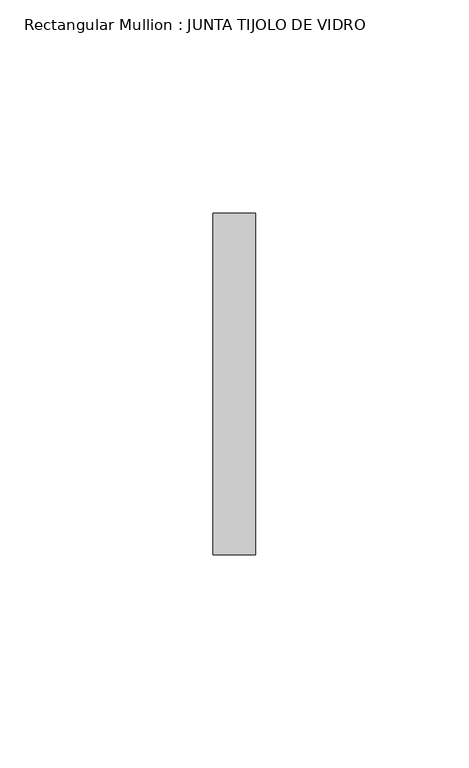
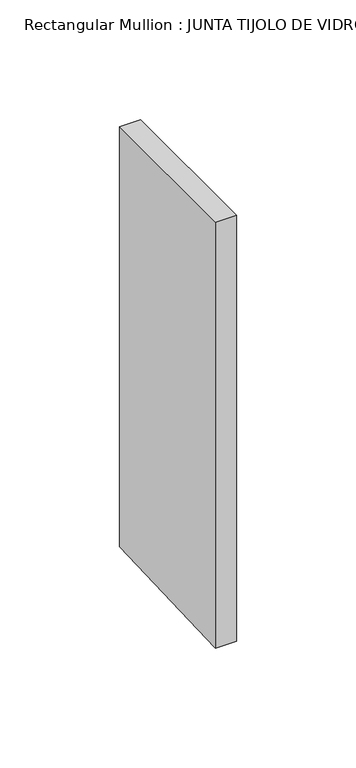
"""IFC4 building model written with IfcOpenShell, lengths in millimetres: member geometry, Rectangular Mullion : JUNTA TIJOLO DE VIDRO."""

import ifcopenshell
import ifcopenshell.guid

model = None  # the IFC model being written
_history = None  # IfcOwnerHistory: only IFC2X3 demands one
_inside = {}  # id of a spatial element -> (the spatial element, [elements in it])
_under = {}  # id of a project, library or spatial element -> (it, [spatial elements below it])
_declared = {}  # id of a project -> (the project, [libraries it declares])
_typed = {}  # id of a type object -> (the type object, [elements of that type])
_made_of = {}  # id of a material, layer set ... -> (it, [elements and type objects made of it])


def new_model(schema):
    """Start an empty IFC model of exactly this schema.

    Asked for "IFC4X3", IfcOpenShell would pick the latest addendum, in which some entities
    have other attributes; the version numbers below select the first issue.
    IFC2X3 requires an IfcOwnerHistory on every rooted entity: one is made here for all.
    """
    global model, _history
    if schema == "IFC4X3":
        model = ifcopenshell.file(schema_version=(4, 3, 0, 0))
    else:
        model = ifcopenshell.file(schema=schema)
    _inside.clear()
    _under.clear()
    _declared.clear()
    _typed.clear()
    _made_of.clear()
    _history = None
    if model.schema == "IFC2X3":
        org = make("IfcOrganization", Name="unknown")
        user = make(
            "IfcPersonAndOrganization",
            ThePerson=make("IfcPerson", FamilyName="unknown"),
            TheOrganization=org,
        )
        app = make(
            "IfcApplication",
            ApplicationDeveloper=org,
            Version="unknown",
            ApplicationFullName="unknown",
            ApplicationIdentifier="unknown",
        )
        _history = make(
            "IfcOwnerHistory",
            OwningUser=user,
            OwningApplication=app,
            ChangeAction="ADDED",
            CreationDate=0,
        )
    return model


def make(cls, **values):
    """One entity of the class cls with the attributes given. An attribute that is None is left unset."""
    return model.create_entity(
        cls, **{name: value for name, value in values.items() if value is not None}
    )


def rooted(cls, **values):
    """An entity with a GlobalId (a new one), such as an element, a storey or a relation."""
    return make(cls, GlobalId=ifcopenshell.guid.new(), OwnerHistory=_history, **values)


def si_unit(unit_type, name, prefix=None):
    """IfcSIUnit, for example si_unit("LENGTHUNIT", "METRE", prefix="MILLI")."""
    return make("IfcSIUnit", UnitType=unit_type, Prefix=prefix, Name=name)


def assignment(units):
    """IfcUnitAssignment: the units of a project."""
    return None if units is None else make("IfcUnitAssignment", Units=units)


def point(xyz):
    """IfcCartesianPoint."""
    return None if xyz is None else make("IfcCartesianPoint", Coordinates=xyz)


def direction(xyz):
    """IfcDirection."""
    return None if xyz is None else make("IfcDirection", DirectionRatios=xyz)


def frame(location, z_axis=None, x_axis=None):
    """IfcAxis2Placement3D, a coordinate frame: its origin and axes. An axis left out is left unset."""
    return make(
        "IfcAxis2Placement3D",
        Location=point(location),
        Axis=direction(z_axis),
        RefDirection=direction(x_axis),
    )


def origin():
    """The frame at (0, 0, 0) with its axes left unset."""
    return frame((0.0, 0.0, 0.0))


def place(relative_to, where):
    """IfcLocalPlacement: puts the frame where relative to a parent placement (None: the world)."""
    return make(
        "IfcLocalPlacement", PlacementRelTo=relative_to, RelativePlacement=where
    )


def context(
    kind, dimensions, precision=None, world=None, true_north=None, identifier=None
):
    """IfcGeometricRepresentationContext, for example the 3D "Model" context."""
    return make(
        "IfcGeometricRepresentationContext",
        ContextIdentifier=identifier,
        ContextType=kind,
        CoordinateSpaceDimension=dimensions,
        Precision=precision,
        WorldCoordinateSystem=world,
        TrueNorth=true_north,
    )


def project(units=None, contexts=None):
    """IfcProject with its units and contexts."""
    return rooted(
        "IfcProject",
        Name="project",
        RepresentationContexts=contexts,
        UnitsInContext=assignment(units),
    )


def spatial(cls, under=None, at=None, **own):
    """A site, building, storey or space (cls), placed at a placement, below another one or the project."""
    s = rooted(cls, ObjectPlacement=at, **own)
    if under is not None:
        _under.setdefault(under.id(), (under, []))[1].append(s)
    return s


def polyline(points):
    """IfcPolyline through the points."""
    return make("IfcPolyline", Points=[point(p) for p in points])


def outline(outer, holes=None, kind="AREA"):
    """IfcArbitraryClosedProfileDef: a profile drawn as a closed curve; with holes, ...WithVoids."""
    if holes is None:
        return make("IfcArbitraryClosedProfileDef", ProfileType=kind, OuterCurve=outer)
    return make(
        "IfcArbitraryProfileDefWithVoids",
        ProfileType=kind,
        OuterCurve=outer,
        InnerCurves=holes,
    )


def extrude(swept, where, along, depth):
    """IfcExtrudedAreaSolid: the profile swept, set in the frame where, extruded along a direction by depth."""
    return make(
        "IfcExtrudedAreaSolid",
        SweptArea=swept,
        Position=where,
        ExtrudedDirection=direction(along),
        Depth=depth,
    )


def shape(context_of_items, identifier, shape_type, items):
    """IfcShapeRepresentation: the items that make up one representation, for example the "Body"."""
    return make(
        "IfcShapeRepresentation",
        ContextOfItems=context_of_items,
        RepresentationIdentifier=identifier,
        RepresentationType=shape_type,
        Items=items,
    )


def source(mapping_origin, context_of_items, identifier, shape_type, items):
    """IfcRepresentationMap: a shape defined once, which mapped items show again and again."""
    return make(
        "IfcRepresentationMap",
        MappingOrigin=mapping_origin,
        MappedRepresentation=shape(context_of_items, identifier, shape_type, items),
    )


def transform(
    local_origin,
    x_axis=None,
    y_axis=None,
    z_axis=None,
    scale=None,
    scale2=None,
    scale3=None,
    uniform=True,
):
    """IfcCartesianTransformationOperator3D, or its non-uniform kind. x_axis, y_axis, z_axis: its Axis1, 2, 3."""
    if uniform:
        return make(
            "IfcCartesianTransformationOperator3D",
            Axis1=direction(x_axis),
            Axis2=direction(y_axis),
            LocalOrigin=point(local_origin),
            Scale=scale,
            Axis3=direction(z_axis),
        )
    return make(
        "IfcCartesianTransformationOperator3DnonUniform",
        Axis1=direction(x_axis),
        Axis2=direction(y_axis),
        LocalOrigin=point(local_origin),
        Scale=scale,
        Axis3=direction(z_axis),
        Scale2=scale2,
        Scale3=scale3,
    )


def mapped(mapping_source, mapping_target):
    """IfcMappedItem: shows the shape of a source again, moved by a transform."""
    return make(
        "IfcMappedItem", MappingSource=mapping_source, MappingTarget=mapping_target
    )


def made_of(thing, what):
    """Note that an element or type object is made of a material, layer set ...; save() writes the relation."""
    if what is not None:
        _made_of.setdefault(what.id(), (what, []))[1].append(thing)
    return thing


def element(
    cls,
    number,
    at=None,
    inside=None,
    cuts=None,
    type_object=None,
    material=None,
    context=None,
    identifier="Body",
    shape_type=None,
    held_by="IfcProductDefinitionShape",
    body=None,
    shapes=None,
    **own,
):
    """One element of the class cls, such as IfcWall. Its Tag is "e" and its number.

    at: its placement. inside: the storey or other place that contains it. cuts: it is an
    opening in that element (IfcRelVoidsElement). A single representation is given by context,
    identifier, shape_type and body (its items); several are given by shapes. held_by: the class
    of the entity that holds the representations. save() writes the other relations.
    """
    e = rooted(cls, Tag="e%d" % number, ObjectPlacement=at, **own)
    if body is not None:
        shapes = [shape(context, identifier, shape_type, body)]
    if shapes is not None:
        e.Representation = make(held_by, Representations=shapes)
    if inside is not None:
        _inside.setdefault(inside.id(), (inside, []))[1].append(e)
    if cuts is not None:
        rooted(
            "IfcRelVoidsElement", RelatingBuildingElement=cuts, RelatedOpeningElement=e
        )
    if type_object is not None:
        _typed.setdefault(type_object.id(), (type_object, []))[1].append(e)
    return made_of(e, material)


def aggregate(whole, parts):
    """IfcRelAggregates: a whole, such as a stair, and the parts it consists of."""
    return rooted("IfcRelAggregates", RelatingObject=whole, RelatedObjects=parts)


def save(model, path):
    """Write the relations noted so far, then the file.

    IfcRelAggregates (storeys below a building ...), IfcRelContainedInSpatialStructure (elements
    in a storey), IfcRelDefinesByType, IfcRelAssociatesMaterial and IfcRelDeclares: one each for
    every whole, place, type object, material and project.
    """
    for whole, parts in _under.values():
        aggregate(whole, parts)
    for where, things in _inside.values():
        rooted(
            "IfcRelContainedInSpatialStructure",
            RelatedElements=things,
            RelatingStructure=where,
        )
    for kind, things in _typed.values():
        rooted("IfcRelDefinesByType", RelatedObjects=things, RelatingType=kind)
    for what, things in _made_of.values():
        rooted("IfcRelAssociatesMaterial", RelatedObjects=things, RelatingMaterial=what)
    for by, libraries in _declared.values():
        rooted("IfcRelDeclares", RelatingContext=by, RelatedDefinitions=libraries)
    model.write(path)


def rectangular_mullion_junta_tijolo_de_vidro_e3abfe3a(model_context):
    return source(origin(), model_context, "Body", "SweptSolid", [
        extrude(outline(polyline([(-40.0, 0.0), (40.0, 0.0), (40.0, -213.7385578), (-40.0, -216.8752034), (-40.0, 0.0)])), frame((-5.0, 0.0, 0.0), z_axis=(1.0, 0.0, 0.0), x_axis=(0.0, 1.0, 0.0)), (0.0, 0.0, 1.0), 10.0),
    ])


if __name__ == "__main__":
    model = new_model("IFC4")
    model_context = context("Model", 3, world=origin())
    ifc_project = project(units=[si_unit("LENGTHUNIT", "METRE", prefix="MILLI")], contexts=[model_context])
    site = spatial("IfcSite", under=ifc_project)
    building = spatial("IfcBuilding", under=site)
    placement = place(None, origin())
    rectangular_mullion_junta_tijolo_de_vidro_shape = rectangular_mullion_junta_tijolo_de_vidro_e3abfe3a(model_context)
    element("IfcMember", 1, ObjectType="Rectangular Mullion : JUNTA TIJOLO DE VIDRO", at=placement, inside=building, context=model_context, shape_type="MappedRepresentation", body=[
        mapped(rectangular_mullion_junta_tijolo_de_vidro_shape, transform((0.0, 0.0, 0.0), x_axis=(1.0, 0.0, 0.0), y_axis=(0.0, 1.0, 0.0), z_axis=(0.0, 0.0, 1.0))),
    ])
    save(model, "model.ifc")
